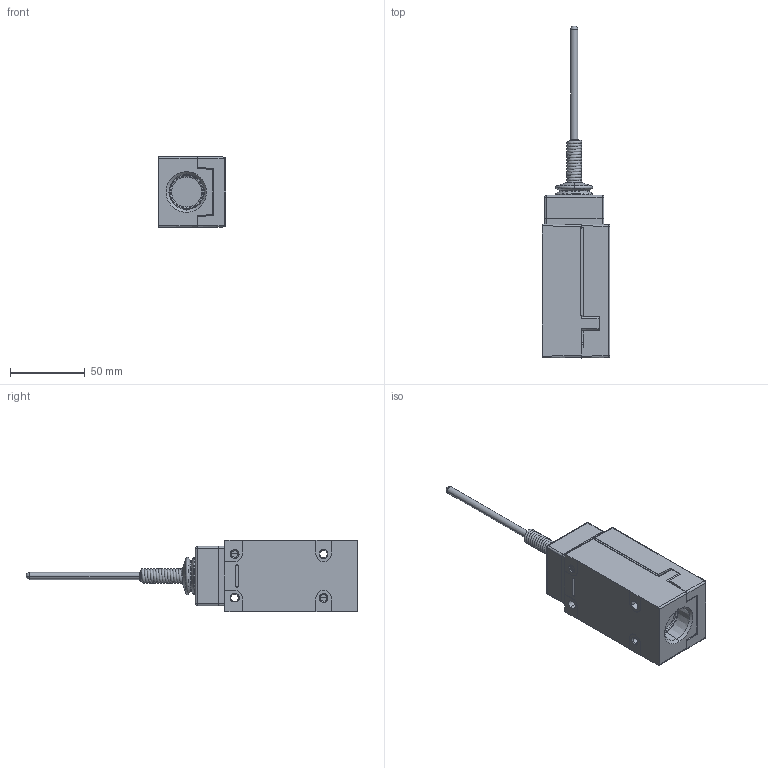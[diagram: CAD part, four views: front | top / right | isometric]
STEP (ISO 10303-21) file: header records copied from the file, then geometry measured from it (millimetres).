
FILE_DESCRIPTION((''),'2;1');
FILE_NAME('LSJ2B-7N','2012-12-06T',('E522935'),(''),'PRO/ENGINEER BY PARAMETRIC TECHNOLOGY CORPORATION, 2009460','PRO/ENGINEER BY PARAMETRIC TECHNOLOGY CORPORATION, 2009460','');
FILE_SCHEMA(('CONFIG_CONTROL_DESIGN'));
Length unit declared in the file: inch
Products named in the file (1): LSJ2B-7N
Bounding box: 45.34 x 222.27 x 47.62 mm (x, y, z)
Volume: 213423.6 mm3; surface area: 35885.6 mm2
Topology: 1 solids, 1 shells, 558 faces, 1464 edges, 906 vertices
Faces by surface type: plane 304, cylinder 161, cone 42, sphere 22, bspline 21, torus 8
Entity records: 26237 total; most frequent: CARTESIAN_POINT 12707, ORIENTED_EDGE 2924, DIRECTION 2699, EDGE_CURVE 1462, AXIS2_PLACEMENT_3D 941, VERTEX_POINT 906, VECTOR 817, LINE 817
